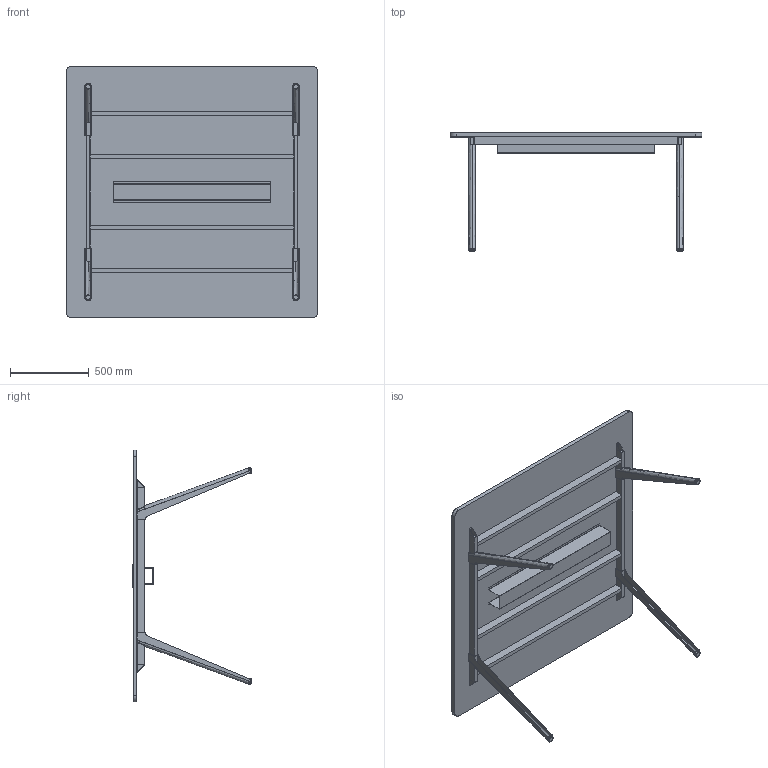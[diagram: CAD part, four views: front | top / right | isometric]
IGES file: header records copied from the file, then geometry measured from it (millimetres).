
Start section: SolidWorks IGES file using analytic representation for surfaces
Global section: file name: C:\Users\simone.cerana\OneDrive - Gruppo Tecno\Desktop\CHINA\DISEGNI DI SERIE\ASSIEMI LISTINO\HORIZON LISTINO\FULL OPTIONAL\HO1616MF.IGS; native system: SolidWorks 2024; preprocessor: SolidWorks 2024; author: simone.cerana; date: 260512.155438; units: millimetre
Bounding box: 1600 x 750.58 x 1600 mm (x, y, z)
Surface area: 7486067.7 mm2 (no closed solid volume)
Topology: 0 solids, 0 shells, 319 faces, 3988 edges, 3988 vertices
Faces by surface type: bspline 223, revolution 96
